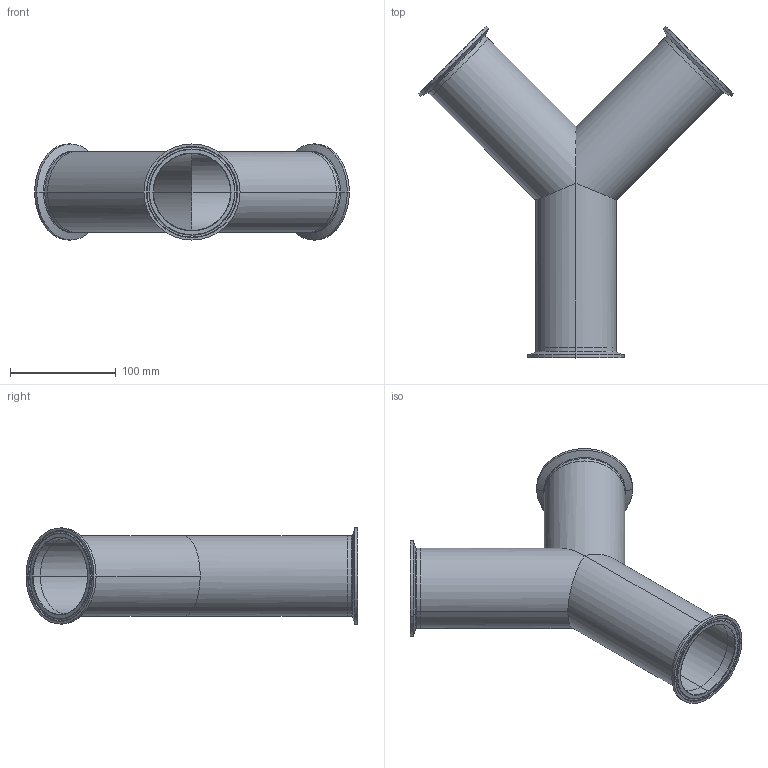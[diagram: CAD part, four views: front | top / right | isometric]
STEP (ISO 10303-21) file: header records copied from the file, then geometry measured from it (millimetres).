
FILE_DESCRIPTION (( 'STEP AP214' ), '1' );
FILE_NAME ('TEG28B6L3.0-...STEP', '2016-05-25T04:45:55', ( 'eran' ), ( '' ), 'SwSTEP 2.0', 'SolidWorks 2016', '' );
FILE_SCHEMA (( 'AUTOMOTIVE_DESIGN' ));
Length unit declared in the file: millimetre
Products named in the file (1): TEG28B6L3.0-..
Bounding box: 297.77 x 313.98 x 90.91 mm (x, y, z)
Volume: 197639.9 mm3; surface area: 225775.4 mm2
Topology: 4 solids, 4 shells, 90 faces, 200 edges, 120 vertices
Faces by surface type: cylinder 30, bspline 30, cone 18, plane 12
Entity records: 4519 total; most frequent: CARTESIAN_POINT 2539, DIRECTION 414, ORIENTED_EDGE 400, EDGE_CURVE 200, AXIS2_PLACEMENT_3D 183, CIRCLE 122, VERTEX_POINT 120, EDGE_LOOP 102
